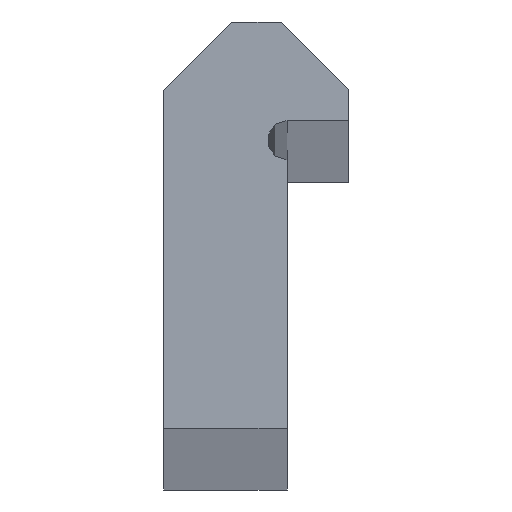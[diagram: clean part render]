
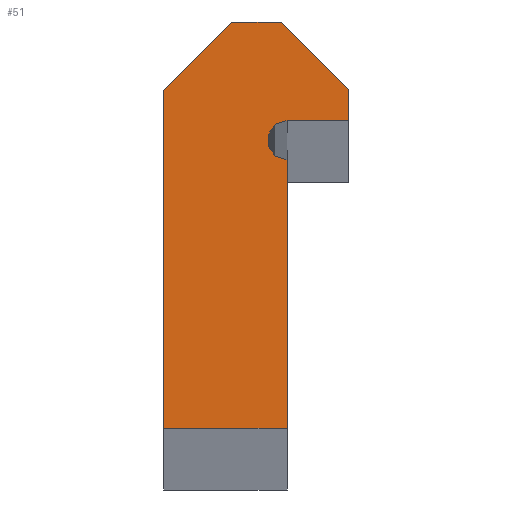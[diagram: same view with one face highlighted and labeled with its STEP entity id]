
A CAD part, top view. The second image highlights one B-rep face of the part: STEP entity #51.
In plain terms, the highlighted planar face has unit normal (0, 0, 1).
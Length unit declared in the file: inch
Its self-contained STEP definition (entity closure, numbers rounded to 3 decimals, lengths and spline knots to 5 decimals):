
#51 = ADVANCED_FACE( '', ( #98 ), #99, .T. );
#98 = FACE_OUTER_BOUND( '', #138, .T. );
#99 = PLANE( '', #139 );
#138 = EDGE_LOOP( '', ( #217, #218, #219, #220, #221, #222, #223, #224, #225 ) );
#139 = AXIS2_PLACEMENT_3D( '', #226, #227, #228 );
#217 = ORIENTED_EDGE( '', *, *, #272, .T. );
#218 = ORIENTED_EDGE( '', *, *, #268, .T. );
#219 = ORIENTED_EDGE( '', *, *, #279, .T. );
#220 = ORIENTED_EDGE( '', *, *, #264, .T. );
#221 = ORIENTED_EDGE( '', *, *, #280, .F. );
#222 = ORIENTED_EDGE( '', *, *, #246, .T. );
#223 = ORIENTED_EDGE( '', *, *, #275, .T. );
#224 = ORIENTED_EDGE( '', *, *, #251, .T. );
#225 = ORIENTED_EDGE( '', *, *, #277, .T. );
#226 = CARTESIAN_POINT( '', ( 0.125, 0.292, 0. ) );
#227 = DIRECTION( '', ( 0., 0., 1. ) );
#228 = DIRECTION( '', ( 1., 0., 0. ) );
#246 = EDGE_CURVE( '', #284, #285, #286, .T. );
#251 = EDGE_CURVE( '', #293, #294, #295, .T. );
#264 = EDGE_CURVE( '', #315, #316, #317, .T. );
#268 = EDGE_CURVE( '', #321, #322, #323, .T. );
#272 = EDGE_CURVE( '', #327, #321, #328, .T. );
#275 = EDGE_CURVE( '', #285, #293, #331, .T. );
#277 = EDGE_CURVE( '', #294, #327, #333, .T. );
#279 = EDGE_CURVE( '', #322, #315, #335, .T. );
#280 = EDGE_CURVE( '', #284, #316, #336, .T. );
#284 = VERTEX_POINT( '', #340 );
#285 = VERTEX_POINT( '', #341 );
#286 = LINE( '', #342, #343 );
#293 = VERTEX_POINT( '', #353 );
#294 = VERTEX_POINT( '', #354 );
#295 = LINE( '', #355, #356 );
#315 = VERTEX_POINT( '', #385 );
#316 = VERTEX_POINT( '', #386 );
#317 = LINE( '', #387, #388 );
#321 = VERTEX_POINT( '', #394 );
#322 = VERTEX_POINT( '', #395 );
#323 = LINE( '', #396, #397 );
#327 = VERTEX_POINT( '', #403 );
#328 = LINE( '', #404, #405 );
#331 = LINE( '', #409, #410 );
#333 = LINE( '', #412, #413 );
#335 = LINE( '', #415, #416 );
#336 = CIRCLE( '', #417, 0.02 );
#340 = CARTESIAN_POINT( '', ( 0.125, 0.312, 0. ) );
#341 = CARTESIAN_POINT( '', ( 0.187, 0.312, 0. ) );
#342 = CARTESIAN_POINT( '', ( 0.125, 0.312, 0. ) );
#343 = VECTOR( '', #420, 39.37008 );
#353 = CARTESIAN_POINT( '', ( 0.187, 0.344, 0. ) );
#354 = CARTESIAN_POINT( '', ( 0.119, 0.412, 0. ) );
#355 = CARTESIAN_POINT( '', ( 0.187, 0.344, 0. ) );
#356 = VECTOR( '', #424, 39.37008 );
#385 = CARTESIAN_POINT( '', ( 0.125, 0., 0. ) );
#386 = CARTESIAN_POINT( '', ( 0.125, 0.272, 0. ) );
#387 = CARTESIAN_POINT( '', ( 0.125, 0., 0. ) );
#388 = VECTOR( '', #437, 39.37008 );
#394 = CARTESIAN_POINT( '', ( 0., 0.343, 0. ) );
#395 = CARTESIAN_POINT( '', ( 0., 0., 0. ) );
#396 = CARTESIAN_POINT( '', ( 0., 0.343, 0. ) );
#397 = VECTOR( '', #440, 39.37008 );
#403 = CARTESIAN_POINT( '', ( 0.069, 0.412, 0. ) );
#404 = CARTESIAN_POINT( '', ( 0.069, 0.412, 0. ) );
#405 = VECTOR( '', #443, 39.37008 );
#409 = CARTESIAN_POINT( '', ( 0.187, 0.312, 0. ) );
#410 = VECTOR( '', #445, 39.37008 );
#412 = CARTESIAN_POINT( '', ( 0.119, 0.412, 0. ) );
#413 = VECTOR( '', #446, 39.37008 );
#415 = CARTESIAN_POINT( '', ( 0., 0., 0. ) );
#416 = VECTOR( '', #447, 39.37008 );
#417 = AXIS2_PLACEMENT_3D( '', #448, #449, #450 );
#420 = DIRECTION( '', ( 1., 0., 0. ) );
#424 = DIRECTION( '', ( -0.707, 0.707, 0. ) );
#437 = DIRECTION( '', ( 0., 1., 0. ) );
#440 = DIRECTION( '', ( 0., -1., 0. ) );
#443 = DIRECTION( '', ( -0.707, -0.707, 0. ) );
#445 = DIRECTION( '', ( 0., 1., 0. ) );
#446 = DIRECTION( '', ( -1., 0., 0. ) );
#447 = DIRECTION( '', ( 1., 0., 0. ) );
#448 = CARTESIAN_POINT( '', ( 0.125, 0.292, 0. ) );
#449 = DIRECTION( '', ( 0., 0., 1. ) );
#450 = DIRECTION( '', ( 1., 0., 0. ) );
